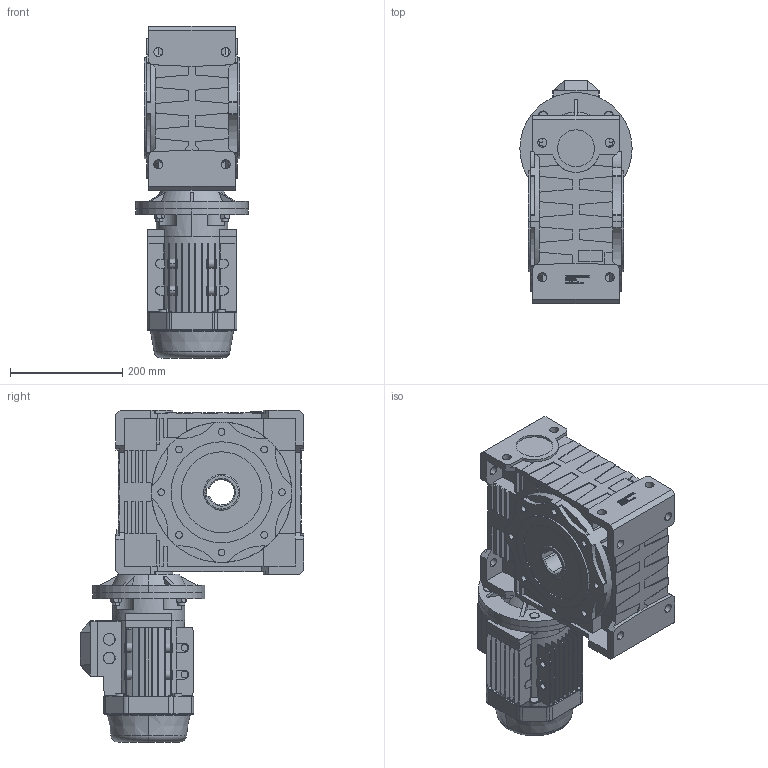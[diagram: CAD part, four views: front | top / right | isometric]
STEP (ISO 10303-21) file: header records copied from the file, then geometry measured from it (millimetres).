
FILE_DESCRIPTION (( 'STEP AP214' ), '1' );
FILE_NAME ('STP_NMRV130_90B5_90S_YS_1_无_无结构附件_空心轴_无.step', '2023-06-14T02:55:30', ( 'Windows 用户' ), ( '' ), 'SwSTEP 2.0', 'SolidWorks 2016', '' );
FILE_SCHEMA (( 'AUTOMOTIVE_DESIGN' ));
Length unit declared in the file: millimetre
Products named in the file (3): STP_NMRV130_90B5_90S_YS_1_无_无结构附件_空心轴_无; STP_NMRV130_90B5_90S_YS_1_无_无结构附件_空心轴_无_NMRV_NMRV130; STP_NMRV130_90B5_90S_YS_1_无_无结构附件_空心轴_无_IEC电机_YS-1.1-4P
Assembly tree (2 placements, depth 2):
  STP_NMRV130_90B5_90S_YS_1_无_无结构附件_空心轴_无
    STP_NMRV130_90B5_90S_YS_1_无_无结构附件_空心轴_无_NMRV_NMRV130
    STP_NMRV130_90B5_90S_YS_1_无_无结构附件_空心轴_无_IEC电机_YS-1.1-4P
Bounding box: 200 x 398.5 x 591.51 mm (x, y, z)
Volume: 17491000.3 mm3; surface area: 1146651.5 mm2
Topology: 8 solids, 8 shells, 2760 faces, 7456 edges, 4888 vertices
Faces by surface type: plane 1725, bspline 435, cylinder 426, cone 112, torus 60, sphere 2
Entity records: 107295 total; most frequent: CARTESIAN_POINT 38966, ORIENTED_EDGE 14904, DIRECTION 12317, EDGE_CURVE 7452, VECTOR 5157, LINE 5157, VERTEX_POINT 4886, AXIS2_PLACEMENT_3D 3580
